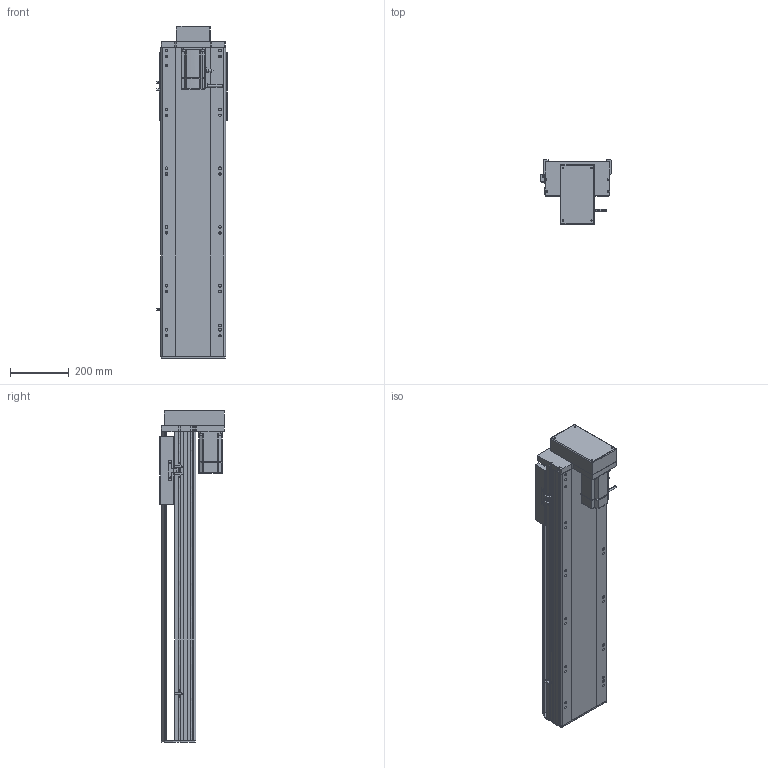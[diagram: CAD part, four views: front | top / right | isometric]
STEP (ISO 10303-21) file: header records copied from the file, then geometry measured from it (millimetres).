
FILE_DESCRIPTION (( 'STEP AP214' ), '1' );
FILE_NAME ('RTH22-XX-750-M-M75-C4.STEP', '2025-10-24T11:09:28', ( 'Microsoft' ), ( 'Microsoft' ), 'SwSTEP 2.0', 'SolidWorks 2018', '' );
FILE_SCHEMA (( 'AUTOMOTIVE_DESIGN' ));
Length unit declared in the file: millimetre
Products named in the file (10): N_OMRON EE-SX672 传感器^RTH22-XX-XX-M-M75-C4; N_RTH22-M-007奻裔^RTH22-XX-XX-M-M75-C4; N_RTH22-GY-001耜裔^RTH22-XX-XX-M-M75-C4; N_750W萇儂^RTH22-XX-XX-M-M75-C4; N_RTH22-L-011菁釱^RTH22-XX-XX-M-M75-C4; N_RTH22-M-018裔赽^RTH22-XX-XX-M-M75-C4; N_RTH22-M-008-P75萇儂啣^RTH22-XX-XX-M-M75-C4; N_RTH22-GY-013外置感应片^RTH22-XX-XX-M-M75-C4; N_RTH22-L-004-SFS25賑釱^RTH22-XX-XX-M-M75-C4; RTH22-XX-750-M-M75-C4
Assembly tree (11 placements, depth 2):
  RTH22-XX-750-M-M75-C4
    N_RTH22-L-011菁釱^RTH22-XX-XX-M-M75-C4
    N_RTH22-GY-001耜裔^RTH22-XX-XX-M-M75-C4
    N_750W萇儂^RTH22-XX-XX-M-M75-C4
    N_RTH22-M-008-P75萇儂啣^RTH22-XX-XX-M-M75-C4
    N_RTH22-M-007奻裔^RTH22-XX-XX-M-M75-C4
    N_RTH22-M-018裔赽^RTH22-XX-XX-M-M75-C4
    N_OMRON EE-SX672 传感器^RTH22-XX-XX-M-M75-C4  x3
    N_RTH22-GY-013外置感应片^RTH22-XX-XX-M-M75-C4
    N_RTH22-L-004-SFS25賑釱^RTH22-XX-XX-M-M75-C4
Bounding box: 238.5 x 218.5 x 1129.7 mm (x, y, z)
Volume: 15918234.1 mm3; surface area: 1776631.2 mm2
Topology: 11 solids, 11 shells, 1605 faces, 4380 edges, 2825 vertices
Faces by surface type: plane 805, cylinder 463, bspline 279, cone 58
Entity records: 40341 total; most frequent: CARTESIAN_POINT 12216, ORIENTED_EDGE 5736, DIRECTION 5402, EDGE_CURVE 2868, VERTEX_POINT 1861, AXIS2_PLACEMENT_3D 1807, VECTOR 1788, LINE 1788
